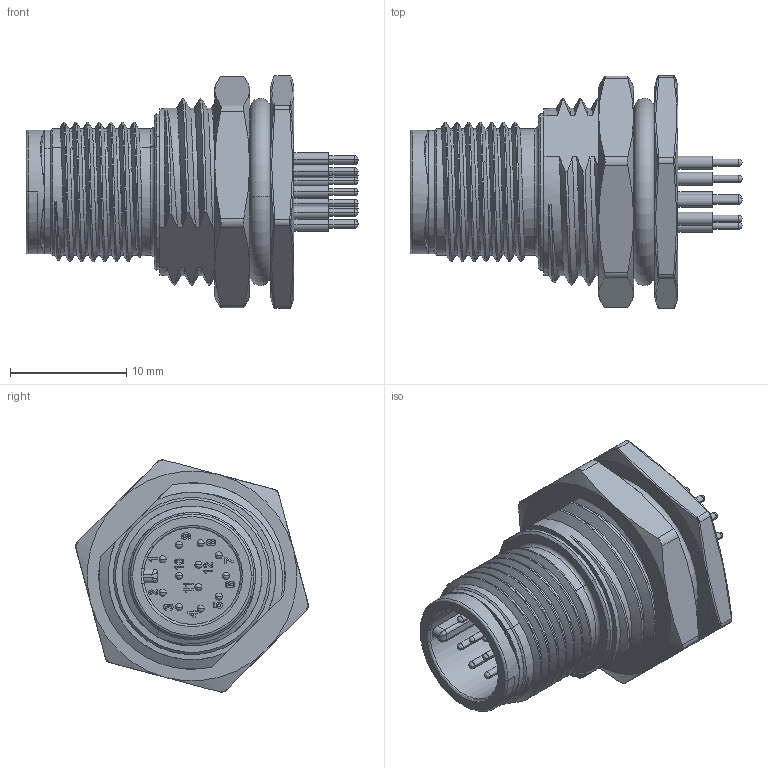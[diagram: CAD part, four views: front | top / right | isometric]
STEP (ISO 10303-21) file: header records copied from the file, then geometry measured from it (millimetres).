
FILE_DESCRIPTION((''),'2;1');
FILE_NAME('M12A-12PMMP-SF8002_SW0001','2016-06-29T',('ks7709'),(''),'PRO/ENGINEER BY PARAMETRIC TECHNOLOGY CORPORATION, 2013050','PRO/ENGINEER BY PARAMETRIC TECHNOLOGY CORPORATION, 2013050','');
FILE_SCHEMA(('CONFIG_CONTROL_DESIGN'));
Length unit declared in the file: millimetre
Products named in the file (1): M12A-12PMMP-SF8002_SW0001
Bounding box: 28.5 x 19.98 x 19.94 mm (x, y, z)
Volume: 3268.5 mm3; surface area: 2705.6 mm2
Topology: 1 solids, 1 shells, 766 faces, 1983 edges, 1259 vertices
Faces by surface type: plane 258, extrusion 173, cylinder 160, bspline 82, sphere 48, cone 33, torus 12
Entity records: 40685 total; most frequent: CARTESIAN_POINT 17667, ORIENTED_EDGE 3870, DIRECTION 2885, EDGE_CURVE 1935, VERTEX_POINT 1259, VECTOR 1097, LINE 924, PRESENTATION_STYLE_ASSIGNMENT 909
